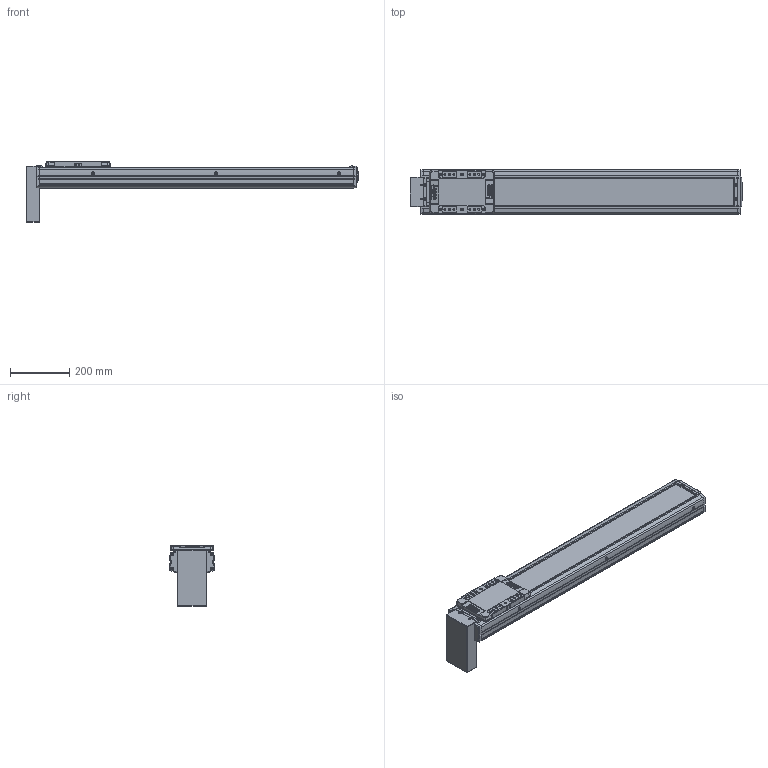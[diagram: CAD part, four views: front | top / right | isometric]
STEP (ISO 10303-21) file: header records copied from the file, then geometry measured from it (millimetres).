
FILE_DESCRIPTION(('STEP AP214'),'1');
FILE_NAME('Z:/Web/3D/SAN150/2013.04 (STP.)/SAN150ㅁㅁ-800PB.stp','2013-05-07T11:07:25',(' '),(' '),'Spatial InterOp 3D',' ',' ');
FILE_SCHEMA(('automotive_design'));
Length unit declared in the file: millimetre
Products named in the file (42): SLBL-SAN150; SLCV-SAN150; FHCS M4.0 x 8.0; BHCS M4.0 x 10.0; SFX-SAN150; RRCV-SAN150; FRBL-SAN150; Spacer; RN15; FRCV-SAN150; Screw 20; BASE-SAN150-000L ; SUS COVER; 스크루 : Round - M5.0 x 6.0; PB; 스크루 : Round - M3.0 x 6.0
Bounding box: 1120 x 150 x 205.4 mm (x, y, z)
Volume: 6732036.7 mm3; surface area: 1167687 mm2
Topology: 42 solids, 42 shells, 2225 faces, 5706 edges, 3635 vertices
Faces by surface type: plane 1061, cylinder 797, cone 270, sphere 64, bspline 21, torus 12
Entity records: 88346 total; most frequent: CARTESIAN_POINT 14566, DIRECTION 12144, ORIENTED_EDGE 11172, EDGE_CURVE 5586, AXIS2_PLACEMENT_3D 4408, VERTEX_POINT 3635, LINE 3328, VECTOR 3328
